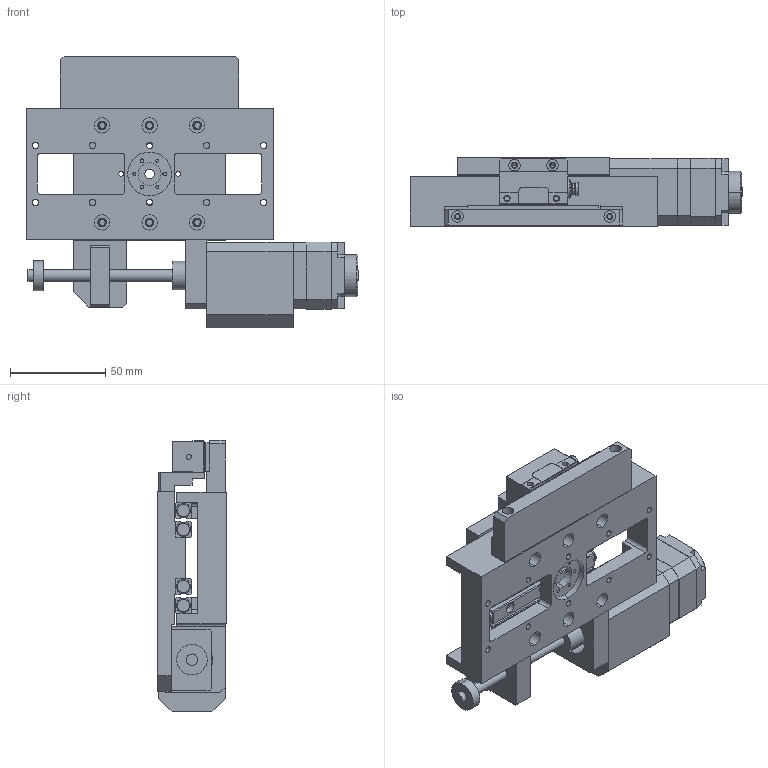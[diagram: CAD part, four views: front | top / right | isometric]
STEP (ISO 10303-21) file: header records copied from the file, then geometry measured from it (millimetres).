
FILE_DESCRIPTION (( 'STEP AP214' ), '1' );
FILE_NAME ('VSM17-X-050-HR-E STEP.STEP', '2023-10-02T10:31:56', ( '' ), ( '' ), 'SwSTEP 2.0', 'SolidWorks 2023', '' );
FILE_SCHEMA (( 'AUTOMOTIVE_DESIGN' ));
Length unit declared in the file: millimetre
Products named in the file (12): Simplified RELA30-50 Scale; Simplified VSM17-X-050 Base V2; Simplified VSM17-X-050 Encoder Scale mount; Simplified Gearbox; VSM17-X-050-HR-E STEP; Simplified Bearing 050; Simplified Drivetrain_VSM17-X-50; Simplified VSM17-X-050 Carriage; Simplified Leadscrew Nut; Simplified VSM17-X Encoder Mount; Simplified Motor_H; Simplified Encoder
Assembly tree (14 placements, depth 2):
  VSM17-X-050-HR-E STEP
    Simplified VSM17-X-050 Base V2
    Simplified Bearing 050  x4
    Simplified Motor_H
    Simplified Drivetrain_VSM17-X-50
    Simplified VSM17-X-050 Carriage
    Simplified Leadscrew Nut
    Simplified VSM17-X-050 Encoder Scale mount
    Simplified RELA30-50 Scale
    Simplified VSM17-X Encoder Mount
    Simplified Encoder
    Simplified Gearbox
Bounding box: 174.6 x 36 x 143 mm (x, y, z)
Volume: 343444.8 mm3; surface area: 109461.3 mm2
Topology: 14 solids, 14 shells, 726 faces, 1830 edges, 1176 vertices
Faces by surface type: plane 334, cylinder 306, cone 64, torus 22
Entity records: 17786 total; most frequent: DIRECTION 3123, CARTESIAN_POINT 3087, ORIENTED_EDGE 2836, EDGE_CURVE 1418, AXIS2_PLACEMENT_3D 1135, VERTEX_POINT 927, VECTOR 853, LINE 853
